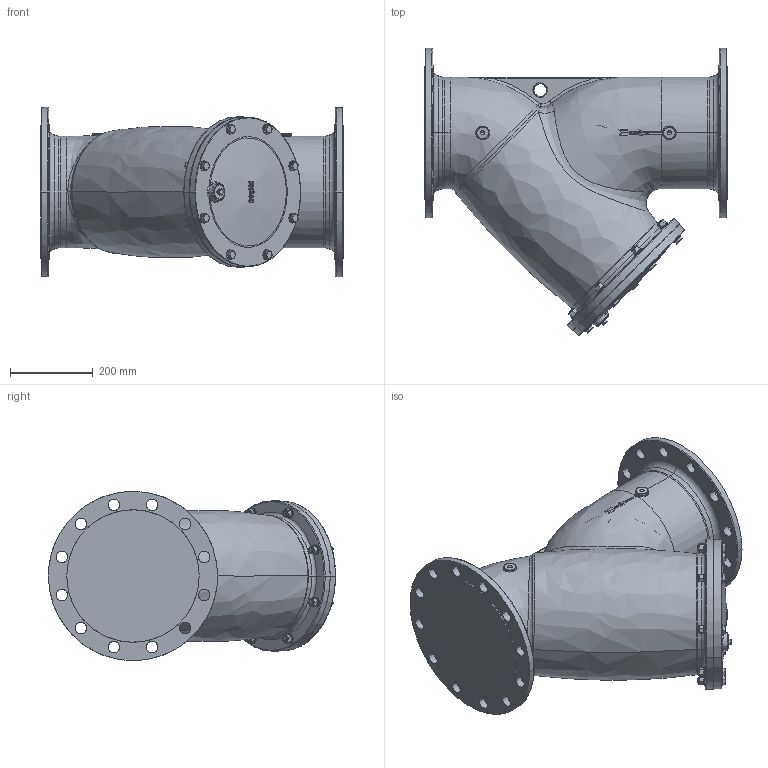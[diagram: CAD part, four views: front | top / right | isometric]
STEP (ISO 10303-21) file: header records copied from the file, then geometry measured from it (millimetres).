
FILE_DESCRIPTION (( 'STEP AP203' ), '1' );
FILE_NAME ('11.000C DN250.STEP', '2022-09-05T12:16:45', ( '' ), ( '' ), 'SwSTEP 2.0', 'SolidWorks 2017', '' );
FILE_SCHEMA (( 'CONFIG_CONTROL_DESIGN' ));
Products named in the file (1): 11.000C DN250
Bounding box: 730 x 692.35 x 407.83 mm (x, y, z)
Volume: 67757961.8 mm3; surface area: 2202476.1 mm2
Topology: 1 solids, 7 shells, 729 faces, 1728 edges, 1099 vertices
Faces by surface type: plane 236, cylinder 216, cone 138, bspline 117, torus 22
Entity records: 78299 total; most frequent: CARTESIAN_POINT 62645, ORIENTED_EDGE 3440, DIRECTION 2798, EDGE_CURVE 1720, AXIS2_PLACEMENT_3D 1139, VERTEX_POINT 1099, EDGE_LOOP 877, ADVANCED_FACE 729
